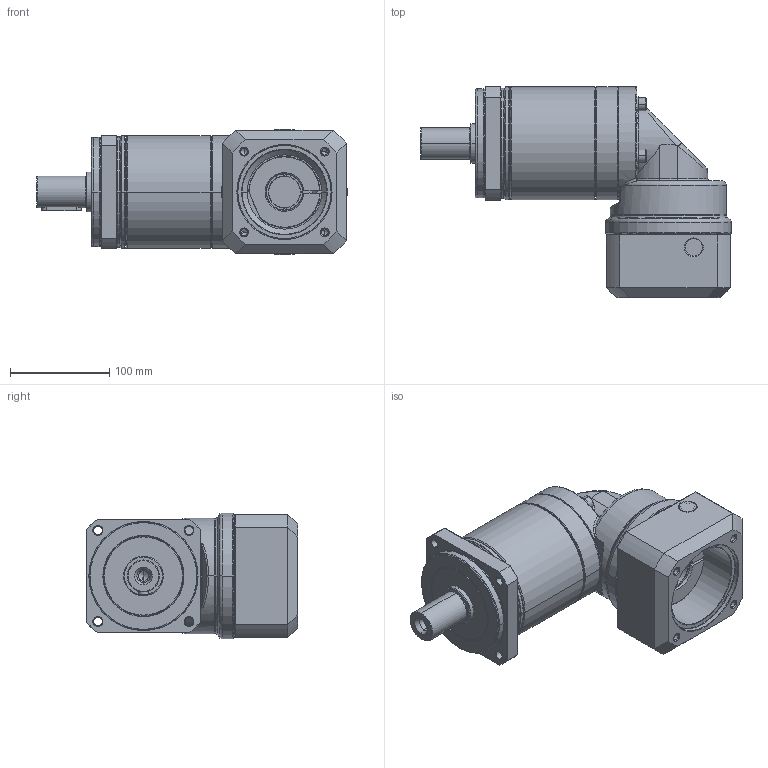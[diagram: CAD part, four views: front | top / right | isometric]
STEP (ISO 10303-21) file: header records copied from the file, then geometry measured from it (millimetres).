
FILE_DESCRIPTION((''),'2;1');
FILE_NAME('PA2R-115_2ST_32-P0411700101_ASM','2016-05-17T',('d01943'),(''),'PRO/ENGINEER BY PARAMETRIC TECHNOLOGY CORPORATION, 2008410','PRO/ENGINEER BY PARAMETRIC TECHNOLOGY CORPORATION, 2008410','');
FILE_SCHEMA(('CONFIG_CONTROL_DESIGN'));
Length unit declared in the file: millimetre
Products named in the file (12): P1327410001; P0251400001; P0350400601; P1349400001; P1017400001; P0713403001; P0503700010; P1350400301; P0411700101; P1702600001; 2111B108035; PA2R-115_2ST_32-P0411700101_ASM
Assembly tree (14 placements, depth 2):
  PA2R-115_2ST_32-P0411700101_ASM
    P1327410001
    P0251400001
    P0350400601
    P1349400001
    P1017400001
    P0713403001
    P0503700010
    P1350400301
    P0411700101
    P1702600001
    2111B108035  x4
Bounding box: 313.5 x 213 x 127 mm (x, y, z)
Volume: 2238684.9 mm3; surface area: 400203.4 mm2
Topology: 14 solids, 14 shells, 738 faces, 1629 edges, 940 vertices
Faces by surface type: cylinder 218, cone 214, plane 168, torus 106, bspline 32
Entity records: 23631 total; most frequent: CARTESIAN_POINT 9312, DIRECTION 3164, ORIENTED_EDGE 2782, EDGE_CURVE 1391, AXIS2_PLACEMENT_3D 1333, VERTEX_POINT 820, EDGE_LOOP 719, CIRCLE 700
